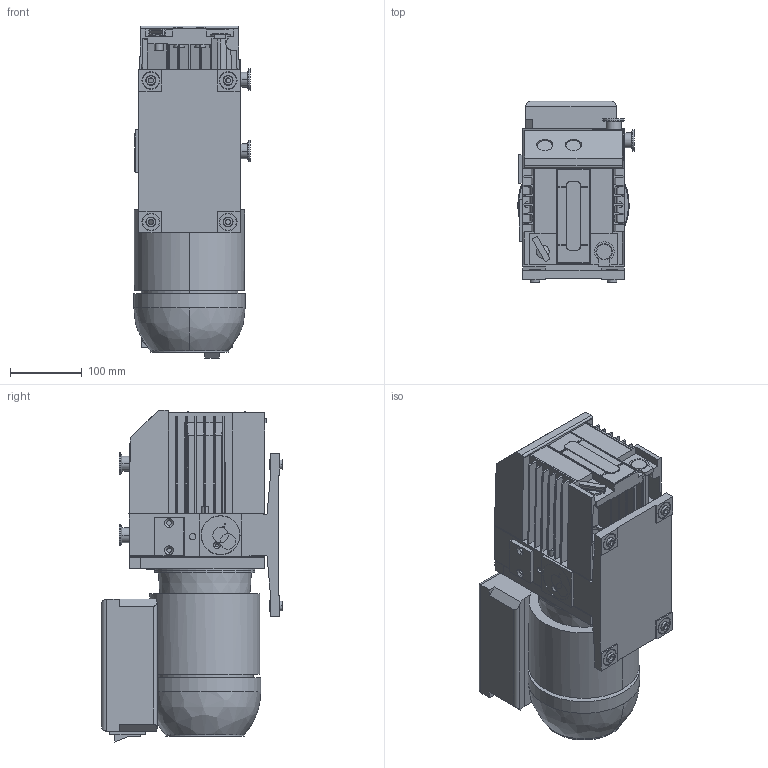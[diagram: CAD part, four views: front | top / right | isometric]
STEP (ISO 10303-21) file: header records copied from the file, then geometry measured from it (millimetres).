
FILE_DESCRIPTION((''),'2;1');
FILE_NAME('300594106_Y19_000_ASM','2016-03-09T',('56762'),('Copyright by Leybold GmbH'),'PRO/ENGINEER BY PARAMETRIC TECHNOLOGY CORPORATION, 2013320','PRO/ENGINEER BY PARAMETRIC TECHNOLOGY CORPORATION, 2013320','');
FILE_SCHEMA(('AUTOMOTIVE_DESIGN { 1 0 10303 214 1 1 1 1 }'));
Length unit declared in the file: millimetre
Products named in the file (22): 300594107_Y19_000; 300593834_Y19_000; 300593835_Y19_000; 300593838_Y19_000; 300594098_Y19_000; 300593851_Y19_000; 300593842_Y19_000; 300590946_Y19_000; 300593840_Y19_000; 300593852_Y19_000; 300594105_Y19_000_ASM; 300590938_Y19_000; 300593693_Y19_000; 300590935_Y19_000; 300590920_Y19_000; 300590916_Y19_000; 300590915_Y19_000; 300590913_Y19_000; 300590922_Y19_000_ASM; 300593862_Y19_000; 300593863_Y19_000; 300594106_Y19_000_ASM
Assembly tree (29 placements, depth 3):
  300594106_Y19_000_ASM
    300594105_Y19_000_ASM
      300594107_Y19_000
      300593834_Y19_000
      300593835_Y19_000
      300593838_Y19_000
      300594098_Y19_000
      300593851_Y19_000
      300593842_Y19_000
      300590946_Y19_000
      300593840_Y19_000
      300593852_Y19_000
    300590938_Y19_000  x4
    300593693_Y19_000
    300590935_Y19_000  x3
    300590922_Y19_000_ASM
      300590920_Y19_000
      300590916_Y19_000
      300590915_Y19_000
      300590913_Y19_000
    300593862_Y19_000  x4
    300593863_Y19_000
Bounding box: 162.93 x 254 x 464.34 mm (x, y, z)
Volume: 11435453.1 mm3; surface area: 907918.2 mm2
Topology: 26 solids, 42 shells, 1149 faces, 2901 edges, 1897 vertices
Faces by surface type: plane 729, cylinder 280, cone 136, bspline 2, torus 2
Entity records: 30404 total; most frequent: CARTESIAN_POINT 5976, DIRECTION 4846, ORIENTED_EDGE 4762, EDGE_CURVE 2381, VECTOR 1736, LINE 1736, VERTEX_POINT 1561, AXIS2_PLACEMENT_3D 1555
